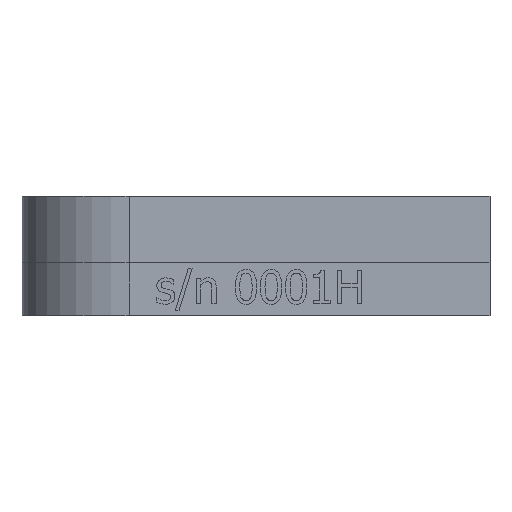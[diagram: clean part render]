
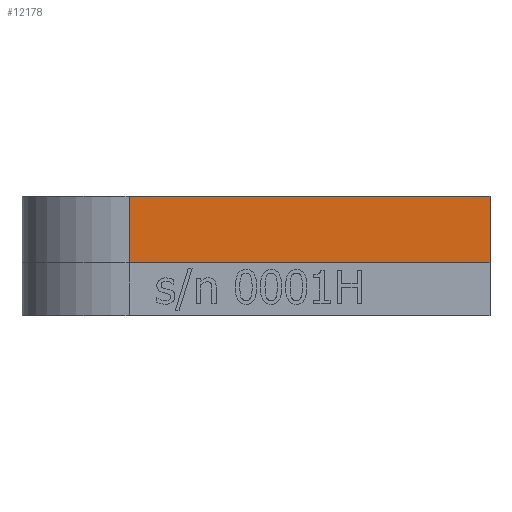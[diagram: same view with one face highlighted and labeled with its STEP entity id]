
A CAD part, front view. The second image highlights one B-rep face of the part: STEP entity #12178.
In plain terms, the highlighted planar face has unit normal (0, -1, 0).
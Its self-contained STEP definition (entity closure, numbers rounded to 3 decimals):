
#876=PLANE('',#12847);
#1434=FACE_OUTER_BOUND('',#2121,.T.);
#2121=EDGE_LOOP('',(#9821,#9822,#9823,#9824));
#3407=LINE('',#19507,#4524);
#3420=LINE('',#19548,#4537);
#3421=LINE('',#19551,#4538);
#3422=LINE('',#19552,#4539);
#4524=VECTOR('',#14674,10.);
#4537=VECTOR('',#14717,10.);
#4538=VECTOR('',#14720,10.);
#4539=VECTOR('',#14721,10.);
#5647=VERTEX_POINT('',#19503);
#5649=VERTEX_POINT('',#19506);
#5662=VERTEX_POINT('',#19546);
#5663=VERTEX_POINT('',#19550);
#7129=EDGE_CURVE('',#5647,#5649,#3407,.T.);
#7149=EDGE_CURVE('',#5662,#5647,#3420,.T.);
#7150=EDGE_CURVE('',#5663,#5662,#3421,.T.);
#7151=EDGE_CURVE('',#5663,#5649,#3422,.T.);
#9821=ORIENTED_EDGE('',*,*,#7149,.F.);
#9822=ORIENTED_EDGE('',*,*,#7150,.F.);
#9823=ORIENTED_EDGE('',*,*,#7151,.T.);
#9824=ORIENTED_EDGE('',*,*,#7129,.F.);
#12178=ADVANCED_FACE('',(#1434),#876,.T.);
#12847=AXIS2_PLACEMENT_3D('',#19549,#14718,#14719);
#14674=DIRECTION('',(1.,0.,0.));
#14717=DIRECTION('',(0.,0.,1.));
#14718=DIRECTION('center_axis',(0.,-1.,0.));
#14719=DIRECTION('ref_axis',(1.,0.,0.));
#14720=DIRECTION('',(-1.,0.,0.));
#14721=DIRECTION('',(0.,0.,1.));
#19503=CARTESIAN_POINT('',(-7.29,-6.471,1.024));
#19506=CARTESIAN_POINT('',(3.49,-6.471,1.024));
#19507=CARTESIAN_POINT('',(-10.49,-6.471,1.024));
#19546=CARTESIAN_POINT('',(-7.29,-6.471,-0.954));
#19548=CARTESIAN_POINT('',(-7.29,-6.471,-0.954));
#19549=CARTESIAN_POINT('Origin',(-10.49,-6.471,-0.954));
#19550=CARTESIAN_POINT('',(3.49,-6.471,-0.954));
#19551=CARTESIAN_POINT('',(-0.005,-6.471,-0.954));
#19552=CARTESIAN_POINT('',(3.49,-6.471,-0.954));
